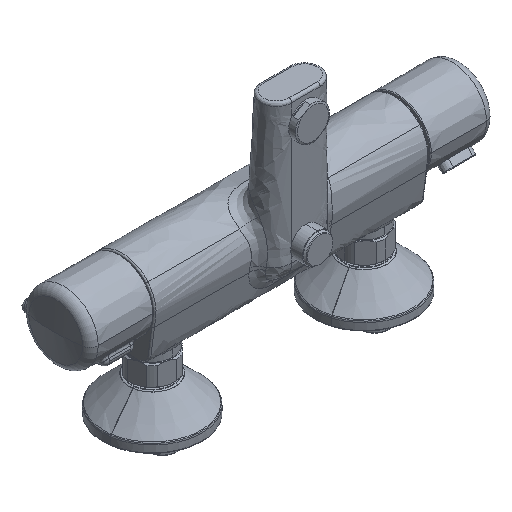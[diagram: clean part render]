
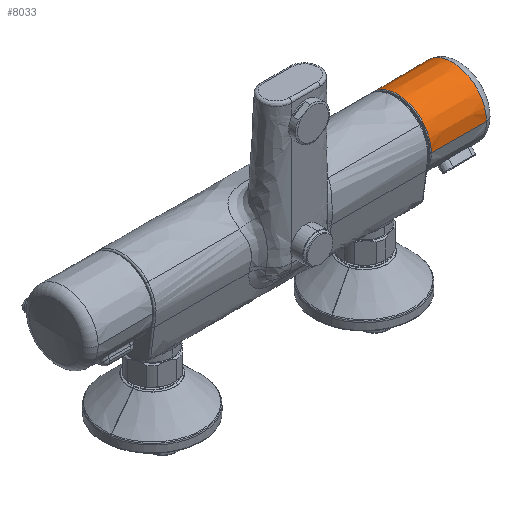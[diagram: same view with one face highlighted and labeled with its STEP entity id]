
A CAD part, isometric view. The second image highlights one B-rep face of the part: STEP entity #8033.
In plain terms, the highlighted conical face has half-angle 0.25 degrees and reference radius 24.194 mm.
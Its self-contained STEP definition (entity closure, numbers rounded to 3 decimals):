
#644 = CARTESIAN_POINT ( 'NONE',  ( 120.653, 23.542, 63.651 ) ) ;
#710 = CARTESIAN_POINT ( 'NONE',  ( 117.452, 24.084, 58.5 ) ) ;
#753 = CIRCLE ( 'NONE', #16981, 24.172 ) ;
#766 = VERTEX_POINT ( 'NONE', #1615 ) ;
#882 = EDGE_CURVE ( 'NONE', #16592, #6244, #10535, .T. ) ;
#1443 = CONICAL_SURFACE ( 'NONE', #18711, 24.194, 0.004 ) ;
#1465 = ORIENTED_EDGE ( 'NONE', *, *, #7457, .T. ) ;
#1476 = CARTESIAN_POINT ( 'NONE',  ( 142.652, 0., 58.5 ) ) ;
#1615 = CARTESIAN_POINT ( 'NONE',  ( 137.558, 23.45, 64.362 ) ) ;
#1855 = ORIENTED_EDGE ( 'NONE', *, *, #16107, .T. ) ;
#1989 = CARTESIAN_POINT ( 'NONE',  ( 137.558, 0., 58.5 ) ) ;
#2105 = CARTESIAN_POINT ( 'NONE',  ( 119.974, 23.626, 63.23 ) ) ;
#2276 = EDGE_CURVE ( 'NONE', #16592, #3521, #7491, .T. ) ;
#2753 = AXIS2_PLACEMENT_3D ( 'NONE', #6482, #16784, #7954 ) ;
#2935 = DIRECTION ( 'NONE',  ( 1., 0., 0. ) ) ;
#3136 = CARTESIAN_POINT ( 'NONE',  ( 132.951, 23.428, 64.369 ) ) ;
#3378 = CARTESIAN_POINT ( 'NONE',  ( 123.736, 23.383, 64.382 ) ) ;
#3473 = DIRECTION ( 'NONE',  ( 0., -1., 0. ) ) ;
#3521 = VERTEX_POINT ( 'NONE', #7369 ) ;
#3578 = CARTESIAN_POINT ( 'NONE',  ( 119.5, 23.694, 62.866 ) ) ;
#4740 = VERTEX_POINT ( 'NONE', #16532 ) ;
#4986 = CARTESIAN_POINT ( 'NONE',  ( 123.333, 23.381, 64.383 ) ) ;
#5048 = CARTESIAN_POINT ( 'NONE',  ( 118.793, 23.81, 62.172 ) ) ;
#5333 = CARTESIAN_POINT ( 'NONE',  ( 117.452, 24.084, 58.5 ) ) ;
#5976 = DIRECTION ( 'NONE',  ( 1., 0.004, 0. ) ) ;
#6070 = CARTESIAN_POINT ( 'NONE',  ( 128.344, 23.405, 64.376 ) ) ;
#6244 = VERTEX_POINT ( 'NONE', #5333 ) ;
#6482 = CARTESIAN_POINT ( 'NONE',  ( 98.721, 0., 58.5 ) ) ;
#6510 = CARTESIAN_POINT ( 'NONE',  ( 118.119, 23.94, 61.184 ) ) ;
#7369 = CARTESIAN_POINT ( 'NONE',  ( 98.721, -24.002, 58.5 ) ) ;
#7457 = EDGE_CURVE ( 'NONE', #12268, #6244, #14093, .T. ) ;
#7491 = CIRCLE ( 'NONE', #2753, 24.002 ) ;
#7928 = CARTESIAN_POINT ( 'NONE',  ( 122.15, 23.419, 64.208 ) ) ;
#7954 = DIRECTION ( 'NONE',  ( 0., -1., 0. ) ) ;
#7986 = CARTESIAN_POINT ( 'NONE',  ( 117.663, 24.036, 60.075 ) ) ;
#8033 = ADVANCED_FACE ( 'NONE', ( #18430 ), #1443, .T. ) ;
#8890 = DIRECTION ( 'NONE',  ( 1., -0.004, 0. ) ) ;
#8945 = ORIENTED_EDGE ( 'NONE', *, *, #9099, .T. ) ;
#9099 = EDGE_CURVE ( 'NONE', #4740, #766, #753, .T. ) ;
#9133 = VECTOR ( 'NONE', #8890, 1000. ) ;
#9396 = CARTESIAN_POINT ( 'NONE',  ( 121.011, 23.505, 63.823 ) ) ;
#9474 = CARTESIAN_POINT ( 'NONE',  ( 117.452, 24.084, 58.9 ) ) ;
#10535 = LINE ( 'NONE', #13361, #12823 ) ;
#10758 = LINE ( 'NONE', #17732, #9133 ) ;
#10882 = CARTESIAN_POINT ( 'NONE',  ( 120.141, 23.604, 63.342 ) ) ;
#12228 = EDGE_LOOP ( 'NONE', ( #18247, #16156, #8945, #1855, #1465, #12751 ) ) ;
#12249 = DIRECTION ( 'NONE',  ( -1., 0., 0. ) ) ;
#12268 = VERTEX_POINT ( 'NONE', #3378 ) ;
#12352 = CARTESIAN_POINT ( 'NONE',  ( 119.654, 23.671, 62.992 ) ) ;
#12751 = ORIENTED_EDGE ( 'NONE', *, *, #882, .F. ) ;
#12823 = VECTOR ( 'NONE', #5976, 1000. ) ;
#13007 = DIRECTION ( 'NONE',  ( 0., 1., 0. ) ) ;
#13350 = CARTESIAN_POINT ( 'NONE',  ( 98.721, 24.002, 58.5 ) ) ;
#13361 = CARTESIAN_POINT ( 'NONE',  ( 142.652, 24.194, 58.5 ) ) ;
#13395 = CARTESIAN_POINT ( 'NONE',  ( 137.558, 23.45, 64.362 ) ) ;
#13837 = CARTESIAN_POINT ( 'NONE',  ( 119.06, 23.764, 62.467 ) ) ;
#14093 = B_SPLINE_CURVE_WITH_KNOTS ( 'NONE', 3,
 ( #15267, #4986, #16752, #7928, #18243, #9396, #644, #10882, #2105, #12352, #3578, #13837, #5048, #15325, #6510, #16826, #7986, #18302, #9474, #710 ),
 .UNSPECIFIED., .F., .F.,
 ( 4, 2, 2, 2, 2, 2, 2, 2, 2, 4 ),
 ( 0., 0.001, 0.002, 0.004, 0.004, 0.005, 0.006, 0.007, 0.008, 0.01 ),
 .UNSPECIFIED. ) ;
#15267 = CARTESIAN_POINT ( 'NONE',  ( 123.736, 23.383, 64.382 ) ) ;
#15325 = CARTESIAN_POINT ( 'NONE',  ( 118.319, 23.899, 61.526 ) ) ;
#15980 = EDGE_CURVE ( 'NONE', #3521, #4740, #10758, .T. ) ;
#16107 = EDGE_CURVE ( 'NONE', #766, #12268, #18577, .T. ) ;
#16156 = ORIENTED_EDGE ( 'NONE', *, *, #15980, .T. ) ;
#16375 = CARTESIAN_POINT ( 'NONE',  ( 123.736, 23.383, 64.382 ) ) ;
#16532 = CARTESIAN_POINT ( 'NONE',  ( 137.558, -24.172, 58.5 ) ) ;
#16592 = VERTEX_POINT ( 'NONE', #13350 ) ;
#16752 = CARTESIAN_POINT ( 'NONE',  ( 122.935, 23.388, 64.348 ) ) ;
#16784 = DIRECTION ( 'NONE',  ( 1., 0., 0. ) ) ;
#16826 = CARTESIAN_POINT ( 'NONE',  ( 117.791, 24.008, 60.46 ) ) ;
#16981 = AXIS2_PLACEMENT_3D ( 'NONE', #1989, #12249, #3473 ) ;
#17732 = CARTESIAN_POINT ( 'NONE',  ( 142.652, -24.194, 58.5 ) ) ;
#18243 = CARTESIAN_POINT ( 'NONE',  ( 121.759, 23.443, 64.102 ) ) ;
#18247 = ORIENTED_EDGE ( 'NONE', *, *, #2276, .T. ) ;
#18302 = CARTESIAN_POINT ( 'NONE',  ( 117.495, 24.074, 59.295 ) ) ;
#18430 = FACE_OUTER_BOUND ( 'NONE', #12228, .T. ) ;
#18577 = B_SPLINE_CURVE_WITH_KNOTS ( 'NONE', 3,
 ( #13395, #3136, #6070, #16375 ),
 .UNSPECIFIED., .F., .F.,
 ( 4, 4 ),
 ( 0., 0.014 ),
 .UNSPECIFIED. ) ;
#18711 = AXIS2_PLACEMENT_3D ( 'NONE', #1476, #2935, #13007 ) ;
